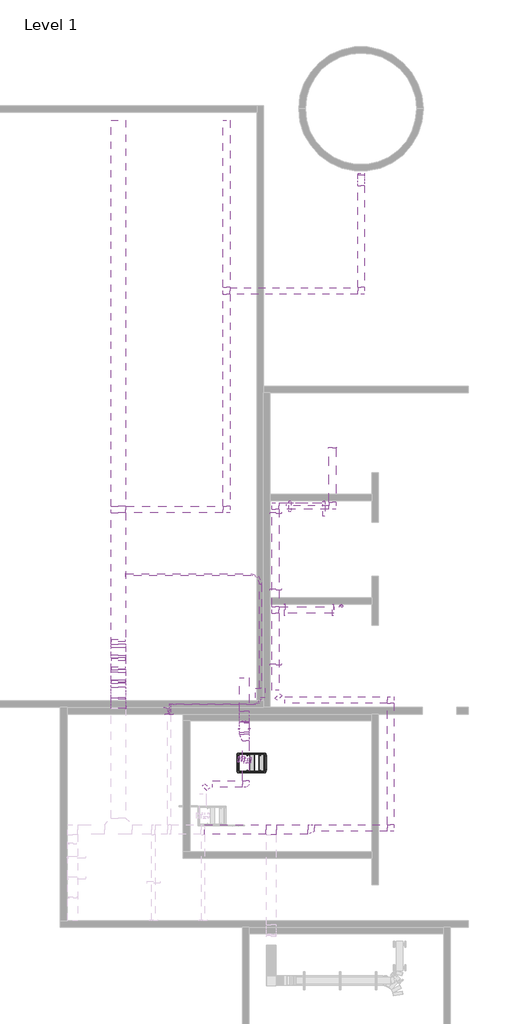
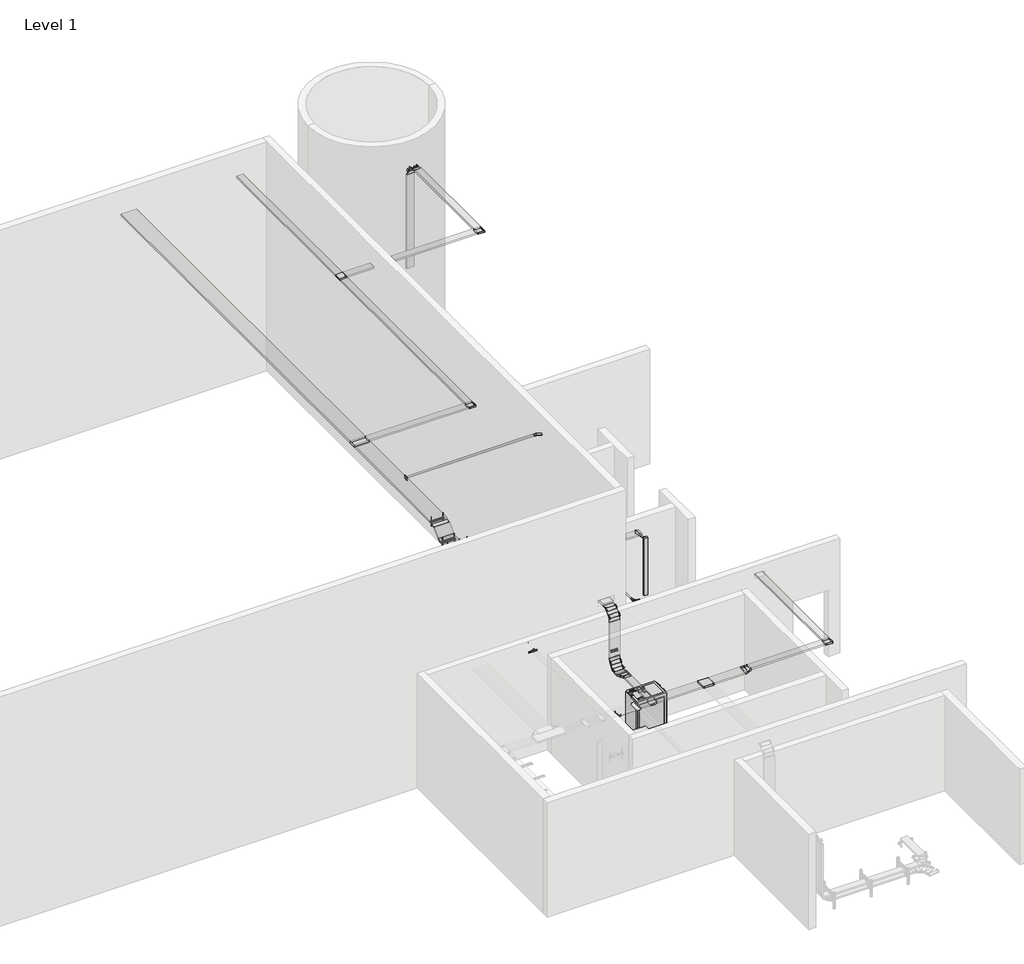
# One storey, part 2 of 2: 36 cable carrier segments, 32 cable carrier fittings, 23 electric appliances.
"""IFC4 building model written with IfcOpenShell, lengths in millimetres."""

from ifc_helpers import new_model, si_unit, point, frame, frame_2d, origin, place, context, project, spatial, polyline, circle_curve, trimmed, segment, composite_curve, outline, extrude, transform, mapped, element, save
from components import cable_carrier_fitting_d4a0889a, cable_carrier_fitting_e2da64ca, cable_carrier_fitting_910f61e4, cable_carrier_fitting_e0ec710b, cable_carrier_fitting_238cf4a7, cable_carrier_fitting_ab9d27d4, cable_carrier_fitting_27584eda, conduit_elbow_plain_end_pvc_standard_c46de57f, conduit_elbow_plain_end_pvc_standard_b2e2501a, conduit_elbow_plain_end_pvc_standard_9a413171, conduit_junction_box_transition_pvc_standard_5b6be8b8, inside_b042d5d7, inside_2fc0db71, inside_51a43a1a, outside_59f74532, outside_6f8a794d, outside_1cee0266, outside_6da51719, standard_9af1a614, standard_2a561b38, standard_1d63030c, electric_appliance_e5aa1008, electric_appliance_356cf39a, electric_appliance_c7009005, standard_d3cc3933, standard_755d2ce0, standard_970344b8, standard_d35a98ab, standard_966c1fd9, standard_ea093acd, standard_b50ad245, standard_c6b716ef, standard_7210bdc4, standard_b028e5ef

model = new_model("IFC4")

# Units and contexts
model_context = context("Model", 3, world=origin())
ifc_project = project(units=[si_unit("LENGTHUNIT", "METRE", prefix="MILLI")], contexts=[model_context])

# Site, building, storey
site = spatial("IfcSite", under=ifc_project)
building = spatial("IfcBuilding", under=site)
storey = spatial("IfcBuildingStorey", under=building, Name="Level 1", Elevation=0.0)

# Cable carrier fittings
placement = place(None, origin())
cable_carrier_fitting_shape = cable_carrier_fitting_d4a0889a(model_context)
element("IfcCableCarrierFitting", 1, ObjectType="Tee-Cablofil-Wire_Mesh_Cable_Tray : EZ T 90 KIT", at=placement, inside=storey, context=model_context, shape_type="MappedRepresentation", body=[
    mapped(cable_carrier_fitting_shape, transform((-1955.469197, 6970.8232107, 6705.6), x_axis=(0.0, 1.0, 0.0), y_axis=(-1.0, 0.0, 0.0), z_axis=(0.0, 0.0, 1.0))),
])
cable_carrier_fitting_2_shape = cable_carrier_fitting_e2da64ca(model_context)
element("IfcCableCarrierFitting", 2, ObjectType="Tee-Cablofil-Wire_Mesh_Cable_Tray : EZ T 90 KIT", at=placement, inside=storey, context=model_context, shape_type="MappedRepresentation", body=[
    mapped(cable_carrier_fitting_2_shape, transform((2915.3791948, 3862.7174485, 3352.8), x_axis=(0.0, 1.0, 0.0), y_axis=(-1.0, 0.0, 0.0), z_axis=(0.0, 0.0, 1.0))),
])
cable_carrier_fitting_3_shape = cable_carrier_fitting_910f61e4(model_context)
element("IfcCableCarrierFitting", 3, ObjectType="Tee-Cablofil-Wire_Mesh_Cable_Tray : EZ T 90 KIT", at=placement, inside=storey, context=model_context, shape_type="MappedRepresentation", body=[
    mapped(cable_carrier_fitting_3_shape, transform((2783.9308637, -2938.9704012, 3352.8), x_axis=(1.0, 0.0, 0.0), y_axis=(0.0, 1.0, 0.0), z_axis=(0.0, 0.0, 1.0))),
])
cable_carrier_fitting_4_shape = cable_carrier_fitting_e0ec710b(model_context)
element("IfcCableCarrierFitting", 4, ObjectType="Tee-Cablofil-Wire_Mesh_Cable_Tray : EZ T 90 KIT", at=placement, inside=storey, context=model_context, shape_type="MappedRepresentation", body=[
    mapped(cable_carrier_fitting_4_shape, transform((1397.330803, 13746.5239249, 6705.6), x_axis=(0.0, 1.0, 0.0), y_axis=(-1.0, 0.0, 0.0), z_axis=(0.0, 0.0, 1.0))),
])
cable_carrier_fitting_5_shape = cable_carrier_fitting_238cf4a7(model_context)
element("IfcCableCarrierFitting", 5, ObjectType="Bend-Horizontal-Cablofil-Wire_Mesh_Cable_Tray : EZ T 90 KIT", at=placement, inside=storey, context=model_context, shape_type="MappedRepresentation", body=[
    mapped(cable_carrier_fitting_5_shape, transform((6484.0791948, -2888.1704012, 3352.8), x_axis=(1.0, 0.0, 0.0), y_axis=(0.0, 1.0, 0.0), z_axis=(0.0, 0.0, 1.0))),
])
element("IfcCableCarrierFitting", 6, ObjectType="Bend-Horizontal-Cablofil-Wire_Mesh_Cable_Tray : EZ T 90 KIT", at=placement, inside=storey, context=model_context, shape_type="MappedRepresentation", body=[
    mapped(cable_carrier_fitting_5_shape, transform((2915.3791948, 7088.2240224, 3352.8), x_axis=(-1.0, 0.0, 0.0), y_axis=(0.0, -1.0, 0.0), z_axis=(0.0, 0.0, 1.0))),
])
element("IfcCableCarrierFitting", 7, ObjectType="Bend-Horizontal-Cablofil-Wire_Mesh_Cable_Tray : EZ T 90 KIT", at=placement, inside=storey, context=model_context, shape_type="MappedRepresentation", body=[
    mapped(cable_carrier_fitting_5_shape, transform((4680.6791948, 7088.2240224, 3352.8), x_axis=(1.0, 0.0, 0.0), y_axis=(0.0, 1.0, 0.0), z_axis=(0.0, 0.0, 1.0))),
])
element("IfcCableCarrierFitting", 8, ObjectType="Bend-Horizontal-Cablofil-Wire_Mesh_Cable_Tray : EZ T 90 KIT", at=placement, inside=storey, context=model_context, shape_type="MappedRepresentation", body=[
    mapped(cable_carrier_fitting_5_shape, transform((6484.0791948, 1074.2295988, 3352.8), x_axis=(0.0, 1.0, 0.0), y_axis=(-1.0, 0.0, 0.0), z_axis=(0.0, 0.0, 1.0))),
])
element("IfcCableCarrierFitting", 9, ObjectType="Bend-Horizontal-Cablofil-Wire_Mesh_Cable_Tray : EZ T 90 KIT", at=placement, inside=storey, context=model_context, shape_type="MappedRepresentation", body=[
    mapped(cable_carrier_fitting_5_shape, transform((1397.330803, 6970.8232107, 6705.6), x_axis=(1.0, 0.0, 0.0), y_axis=(0.0, 1.0, 0.0), z_axis=(0.0, 0.0, 1.0))),
])
cable_carrier_fitting_6_shape = cable_carrier_fitting_ab9d27d4(model_context)
element("IfcCableCarrierFitting", 10, ObjectType="Bend-Horizontal-Cablofil-Wire_Mesh_Cable_Tray : Faslock", at=placement, inside=storey, context=model_context, shape_type="MappedRepresentation", body=[
    mapped(cable_carrier_fitting_6_shape, transform((2915.3791948, 1074.2295988, 3352.8), x_axis=(0.0, -1.0, 0.0), y_axis=(1.0, 0.0, 0.0), z_axis=(0.0, 0.0, 1.0))),
])
element("IfcCableCarrierFitting", 11, ObjectType="Bend-Horizontal-Cablofil-Wire_Mesh_Cable_Tray : Faslock", at=placement, inside=storey, context=model_context, shape_type="MappedRepresentation", body=[
    mapped(cable_carrier_fitting_6_shape, transform((667.4791948, -1530.6766808, 2165.35), x_axis=(-1.0, 0.0, 0.0), y_axis=(0.0, -1.0, 0.0), z_axis=(0.0, 0.0, 1.0))),
])
cable_carrier_fitting_7_shape = cable_carrier_fitting_27584eda(model_context)
element("IfcCableCarrierFitting", 12, ObjectType="Bend-Horizontal-Cablofil-Wire_Mesh_Cable_Tray : RAD T 90 KIT", at=placement, inside=storey, context=model_context, shape_type="MappedRepresentation", body=[
    mapped(cable_carrier_fitting_7_shape, transform((1996.5308637, -1530.6766808, 2165.35), x_axis=(1.0, 0.0, 0.0), y_axis=(0.0, 1.0, 0.0), z_axis=(0.0, 0.0, 1.0))),
])
element("IfcCableCarrierFitting", 13, ObjectType="Bend-Horizontal-Cablofil-Wire_Mesh_Cable_Tray : EZ T 90 KIT", at=placement, inside=storey, context=model_context, shape_type="MappedRepresentation", body=[
    mapped(cable_carrier_fitting_5_shape, transform((5569.6791948, 13746.5239249, 6705.6), x_axis=(1.0, 0.0, 0.0), y_axis=(0.0, 1.0, 0.0), z_axis=(0.0, 0.0, 1.0))),
])
conduit_elbow_plain_end_pvc_standard_shape = conduit_elbow_plain_end_pvc_standard_c46de57f(model_context)
element("IfcCableCarrierFitting", 14, ObjectType="Conduit Elbow - Plain End - PVC : Standard", at=placement, inside=storey, context=model_context, shape_type="MappedRepresentation", body=[
    mapped(conduit_elbow_plain_end_pvc_standard_shape, transform((-405.297722, 843.6390015, 3343.6440938), x_axis=(0.0, 1.0, 0.0), y_axis=(-0.9999999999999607, 0.0, 2.8068152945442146e-07), z_axis=(2.8068152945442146e-07, 0.0, 0.9999999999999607))),
])
conduit_elbow_plain_end_pvc_standard_2_shape = conduit_elbow_plain_end_pvc_standard_b2e2501a(model_context)
element("IfcCableCarrierFitting", 15, ObjectType="Conduit Elbow - Plain End - PVC : Standard", at=placement, inside=storey, context=model_context, shape_type="MappedRepresentation", body=[
    mapped(conduit_elbow_plain_end_pvc_standard_2_shape, transform((-354.497722, 945.2390015, 3350.1210938), x_axis=(0.0, 1.0, 0.0), y_axis=(0.0, 0.0, 1.0), z_axis=(1.0, 0.0, 0.0))),
])
element("IfcCableCarrierFitting", 16, ObjectType="Conduit Elbow - Plain End - PVC : Standard", at=placement, inside=storey, context=model_context, shape_type="MappedRepresentation", body=[
    mapped(conduit_elbow_plain_end_pvc_standard_2_shape, transform((-354.497722, 945.2390015, 6705.6), x_axis=(0.0, 0.0, 1.0), y_axis=(1.0, 0.0, 0.0), z_axis=(0.0, 1.0, 0.0))),
])
element("IfcCableCarrierFitting", 17, ObjectType="Conduit Elbow - Plain End - PVC : Standard", at=placement, inside=storey, context=model_context, shape_type="MappedRepresentation", body=[
    mapped(conduit_elbow_plain_end_pvc_standard_2_shape, transform((2445.4791948, 945.2390015, 6705.6), x_axis=(1.0, 0.0, 0.0), y_axis=(0.0, 1.0, 0.0), z_axis=(0.0, 0.0, 1.0))),
])
conduit_elbow_plain_end_pvc_standard_3_shape = conduit_elbow_plain_end_pvc_standard_9a413171(model_context)
element("IfcCableCarrierFitting", 18, ObjectType="Conduit Elbow - Plain End - PVC : Standard", at=placement, inside=storey, context=model_context, shape_type="MappedRepresentation", body=[
    mapped(conduit_elbow_plain_end_pvc_standard_3_shape, transform((2445.4791948, 4949.2348146, 6705.6), x_axis=(0.0, 1.0, 0.0), y_axis=(-1.0, 0.0, 0.0), z_axis=(0.0, 0.0, 1.0))),
])
conduit_junction_box_transition_pvc_standard_shape = conduit_junction_box_transition_pvc_standard_5b6be8b8(model_context)
element("IfcCableCarrierFitting", 19, ObjectType="Conduit Junction Box - Transition - PVC : Standard", at=placement, inside=storey, context=model_context, shape_type="MappedRepresentation", body=[
    mapped(conduit_junction_box_transition_pvc_standard_shape, transform((2445.4791948, 1138.9140015, 6705.6), x_axis=(0.0, 1.0, 0.0), y_axis=(-1.0, 0.0, 0.0), z_axis=(0.0, 0.0, 1.0))),
])
inside_shape = inside_b042d5d7(model_context)
element("IfcCableCarrierFitting", 20, ObjectType="Bend-Vertical-Cablofil-Wire_Mesh_Cable_Tray : Inside", at=placement, inside=storey, context=model_context, shape_type="MappedRepresentation", body=[
    mapped(inside_shape, transform((1945.7308637, 371.687315, 2165.35), x_axis=(0.0, 1.0, 0.0), y_axis=(0.0, 0.0, 1.0), z_axis=(1.0, 0.0, 0.0))),
])
inside_2_shape = inside_2fc0db71(model_context)
element("IfcCableCarrierFitting", 21, ObjectType="Bend-Vertical-Cablofil-Wire_Mesh_Cable_Tray : Inside", at=placement, inside=storey, context=model_context, shape_type="MappedRepresentation", body=[
    mapped(inside_2_shape, transform((-1955.469197, 1123.0390015, 3352.8), x_axis=(0.0, 1.0, 0.0), y_axis=(0.0, 0.0, 1.0), z_axis=(1.0, 0.0, 0.0))),
])
inside_3_shape = inside_51a43a1a(model_context)
element("IfcCableCarrierFitting", 22, ObjectType="Bend-Vertical-Cablofil-Wire_Mesh_Cable_Tray : Inside", at=placement, inside=storey, context=model_context, shape_type="MappedRepresentation", body=[
    mapped(inside_3_shape, transform((-1955.469197, 1968.9174364, 6400.8), x_axis=(0.0, 0.7071067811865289, -0.7071067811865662), y_axis=(0.0, 0.7071067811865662, 0.7071067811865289), z_axis=(1.0, 0.0, 0.0))),
])
element("IfcCableCarrierFitting", 23, ObjectType="Bend-Vertical-Cablofil-Wire_Mesh_Cable_Tray : Inside", at=placement, inside=storey, context=model_context, shape_type="MappedRepresentation", body=[
    mapped(inside_3_shape, transform((-1955.469197, 2423.2921374, 6400.8), x_axis=(0.0, 1.0, 0.0), y_axis=(0.0, 0.0, 1.0), z_axis=(1.0, 0.0, 0.0))),
])
outside_shape = outside_59f74532(model_context)
element("IfcCableCarrierFitting", 24, ObjectType="Bend-Vertical-Cablofil-Wire_Mesh_Cable_Tray : Outside", at=placement, inside=storey, context=model_context, shape_type="MappedRepresentation", body=[
    mapped(outside_shape, transform((1945.7308637, 371.687315, 3962.4), x_axis=(0.0, 0.0, 1.0), y_axis=(0.0, 1.0, 0.0), z_axis=(-1.0, 0.0, 0.0))),
])
outside_2_shape = outside_6f8a794d(model_context)
element("IfcCableCarrierFitting", 25, ObjectType="Bend-Vertical-Cablofil-Wire_Mesh_Cable_Tray : Outside", at=placement, inside=storey, context=model_context, shape_type="MappedRepresentation", body=[
    mapped(outside_2_shape, transform((-1955.469197, 1123.0390015, 6705.6), x_axis=(0.0, 0.0, 1.0), y_axis=(0.0, 1.0, 0.0), z_axis=(-1.0, 0.0, 0.0))),
])
outside_3_shape = outside_1cee0266(model_context)
element("IfcCableCarrierFitting", 26, ObjectType="Bend-Vertical-Cablofil-Wire_Mesh_Cable_Tray : Outside", at=placement, inside=storey, context=model_context, shape_type="MappedRepresentation", body=[
    mapped(outside_3_shape, transform((-1955.469197, 1664.1174364, 6705.6), x_axis=(0.0, 1.0, 0.0), y_axis=(0.0, 0.0, -1.0), z_axis=(-1.0, 0.0, 0.0))),
])
element("IfcCableCarrierFitting", 27, ObjectType="Bend-Vertical-Cablofil-Wire_Mesh_Cable_Tray : Outside", at=placement, inside=storey, context=model_context, shape_type="MappedRepresentation", body=[
    mapped(outside_3_shape, transform((-1955.469197, 2728.0921374, 6705.6), x_axis=(0.0, 0.7071067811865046, 0.7071067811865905), y_axis=(0.0, 0.7071067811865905, -0.7071067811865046), z_axis=(-1.0, 0.0, 0.0))),
])
outside_4_shape = outside_6da51719(model_context)
element("IfcCableCarrierFitting", 28, ObjectType="Bend-Vertical-Cablofil-Wire_Mesh_Cable_Tray : Outside", at=placement, inside=storey, context=model_context, shape_type="MappedRepresentation", body=[
    mapped(outside_4_shape, transform((5569.6791948, 17358.4921374, 6705.6), x_axis=(0.0, 0.0, 1.0), y_axis=(0.0, -1.0, 0.0), z_axis=(1.0, 0.0, 0.0))),
])
standard_shape = standard_9af1a614(model_context)
element("IfcCableCarrierFitting", 29, ObjectType="End-Cablofil-Wire_Mesh_Cable_Tray : Standard", at=placement, inside=storey, context=model_context, shape_type="MappedRepresentation", body=[
    mapped(standard_shape, transform((4680.6791948, 8899.9695988, 3352.8), x_axis=(0.0, 1.0, 0.0), y_axis=(-1.0, 0.0, 0.0), z_axis=(0.0, 0.0, 1.0))),
])
standard_2_shape = standard_2a561b38(model_context)
element("IfcCableCarrierFitting", 30, ObjectType="End-Cablofil-Wire_Mesh_Cable_Tray-To_Conduit : Standard", at=placement, inside=storey, context=model_context, shape_type="MappedRepresentation", body=[
    mapped(standard_2_shape, transform((-379.897722, 637.9498015, 3352.8), x_axis=(0.0, 1.0, 0.0), y_axis=(-1.0, 0.0, 0.0), z_axis=(0.0, 0.0, 1.0))),
])
standard_3_shape = standard_1d63030c(model_context)
element("IfcCableCarrierFitting", 31, ObjectType="Reducer-Cablofil-Wire_Mesh_Cable_Tray : Standard", at=placement, inside=storey, context=model_context, shape_type="MappedRepresentation", body=[
    mapped(standard_3_shape, transform((4020.2791948, -2938.9704012, 3352.8), x_axis=(1.0, 0.0, 0.0), y_axis=(0.0, 1.0, 0.0), z_axis=(0.0, 0.0, 1.0))),
])
element("IfcCableCarrierFitting", 32, ObjectType="Reducer-Cablofil-Wire_Mesh_Cable_Tray : Standard", at=placement, inside=storey, context=model_context, shape_type="MappedRepresentation", body=[
    mapped(standard_3_shape, transform((1945.7308637, -85.512685, 2165.35), x_axis=(0.0, -1.0, 0.0), y_axis=(1.0, 0.0, 0.0), z_axis=(0.0, 0.0, 1.0))),
])

# Cable carrier segments
element("IfcCableCarrierSegment", 33, ObjectType="Cable_Tray-Wire_Mesh-Cablofil", at=placement, inside=storey, context=model_context, shape_type="SweptSolid", body=[
    extrude(outline(polyline([(2098.1308637, 16.087315), (1793.3308637, 16.087315), (1793.3308637, 72.3506914), (2098.1308637, 72.3506914), (2098.1308637, 16.087315)])), frame((0.0, 0.0, 2139.95), z_axis=(0.0, 0.0, 1.0), x_axis=(1.0, 0.0, 0.0)), (0.0, 0.0, 1.0), 50.8),
])
element("IfcCableCarrierSegment", 34, ObjectType="Cable_Tray-Wire_Mesh-Cablofil", at=placement, inside=storey, context=model_context, shape_type="SweptSolid", body=[
    extrude(outline(polyline([(2939.5058637, -3091.3704012), (2939.5058637, -2786.5704012), (3918.6791948, -2786.5704012), (3918.6791948, -3091.3704012), (2939.5058637, -3091.3704012)])), frame((0.0, 0.0, 3327.4), z_axis=(0.0, 0.0, 1.0), x_axis=(1.0, 0.0, 0.0)), (0.0, 0.0, 1.0), 50.8),
])
element("IfcCableCarrierSegment", 35, ObjectType="Cable_Tray-Wire_Mesh-Cablofil", at=placement, inside=storey, context=model_context, shape_type="SweptSolid", body=[
    extrude(outline(polyline([(6585.6791948, -2783.3954012), (6382.4791948, -2783.3954012), (6382.4791948, 969.4545988), (6585.6791948, 969.4545988), (6585.6791948, -2783.3954012)])), frame((0.0, 0.0, 3327.4), z_axis=(0.0, 0.0, 1.0), x_axis=(1.0, 0.0, 0.0)), (0.0, 0.0, 1.0), 50.8),
])
element("IfcCableCarrierSegment", 36, ObjectType="Cable_Tray-Wire_Mesh-Cablofil", at=placement, inside=storey, context=model_context, shape_type="SweptSolid", body=[
    extrude(outline(polyline([(965.3553227, -1632.2766808), (965.3553227, -1429.0766808), (1891.7558637, -1429.0766808), (1891.7558637, -1632.2766808), (965.3553227, -1632.2766808)])), frame((0.0, 0.0, 2139.95), z_axis=(0.0, 0.0, 1.0), x_axis=(1.0, 0.0, 0.0)), (0.0, 0.0, 1.0), 50.8),
])
element("IfcCableCarrierSegment", 37, ObjectType="Cable_Tray-Wire_Mesh-Cablofil", at=placement, inside=storey, context=model_context, shape_type="SweptSolid", body=[
    extrude(outline(polyline([(2628.3558637, -2786.5704012), (2628.3558637, -3091.3704012), (721.4541948, -3091.3704012), (721.4541948, -2786.5704012), (2628.3558637, -2786.5704012)])), frame((0.0, 0.0, 3327.4), z_axis=(0.0, 0.0, 1.0), x_axis=(1.0, 0.0, 0.0)), (0.0, 0.0, 1.0), 50.8),
])
element("IfcCableCarrierSegment", 38, ObjectType="Cable_Tray-Wire_Mesh-Cablofil", at=placement, inside=storey, context=model_context, shape_type="SweptSolid", body=[
    extrude(outline(polyline([(-1726.869197, 1473.1756252), (-2184.069197, 1473.1756252), (-2184.069197, 1598.6108881), (-1726.869197, 1598.6108881), (-1726.869197, 1473.1756252)])), frame((0.0, 0.0, 6680.2), z_axis=(0.0, 0.0, 1.0), x_axis=(1.0, 0.0, 0.0)), (0.0, 0.0, 1.0), 50.8),
])
element("IfcCableCarrierSegment", 39, ObjectType="Cable_Tray-Wire_Mesh-Cablofil", at=placement, inside=storey, context=model_context, shape_type="SweptSolid", body=[
    extrude(outline(polyline([(-1726.869197, 1148.4390015), (-1726.869197, 1097.6390015), (-2184.069197, 1097.6390015), (-2184.069197, 1148.4390015), (-1726.869197, 1148.4390015)])), frame((0.0, 0.0, 3652.1366237), z_axis=(0.0, 0.0, 1.0), x_axis=(1.0, 0.0, 0.0)), (0.0, 0.0, 1.0), 2703.3267527),
])
element("IfcCableCarrierSegment", 40, ObjectType="Cable_Tray-Wire_Mesh-Cablofil", at=placement, inside=storey, context=model_context, shape_type="SweptSolid", body=[
    extrude(outline(polyline([(0.0, -457.2), (0.0, 0.0), (321.0812463, 0.0), (321.0812463, -457.2), (0.0, -457.2)])), frame((-2184.069197, 1692.4770486, 6641.3193633), z_axis=(0.0, 0.7071067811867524, 0.7071067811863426), x_axis=(0.0, 0.7071067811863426, -0.7071067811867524)), (0.0, 0.0, 1.0), 50.8),
])
element("IfcCableCarrierSegment", 41, ObjectType="Cable_Tray-Wire_Mesh-Cablofil", at=placement, inside=storey, context=model_context, shape_type="SweptSolid", body=[
    extrude(outline(polyline([(-1726.869197, 2013.3819357), (-2184.069197, 2013.3819357), (-2184.069197, 2378.8276381), (-1726.869197, 2378.8276381), (-1726.869197, 2013.3819357)])), frame((0.0, 0.0, 6375.4), z_axis=(0.0, 0.0, 1.0), x_axis=(1.0, 0.0, 0.0)), (0.0, 0.0, 1.0), 50.8),
])
element("IfcCableCarrierSegment", 42, ObjectType="Cable_Tray-Wire_Mesh-Cablofil", at=placement, inside=storey, context=model_context, shape_type="SweptSolid", body=[
    extrude(outline(polyline([(228.6, 255.4067825), (228.6, 204.6067825), (-228.6, 204.6067825), (-228.6, 255.4067825), (228.6, 255.4067825)])), frame((-1955.469197, 2292.0939308, 6594.8805046), z_axis=(0.0, 0.7071067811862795, 0.7071067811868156), x_axis=(1.0, 0.0, 0.0)), (0.0, 0.0, 1.0), 321.0812463),
])
element("IfcCableCarrierSegment", 43, ObjectType="Cable_Tray-Wire_Mesh-Cablofil", at=placement, inside=storey, context=model_context, shape_type="SweptSolid", body=[
    extrude(outline(polyline([(-1726.869197, 7075.5982107), (-2184.069197, 7075.5982107), (-2184.069197, 19032.2639249), (-1726.869197, 19032.2639249), (-1726.869197, 7075.5982107)])), frame((0.0, 0.0, 6680.2), z_axis=(0.0, 0.0, 1.0), x_axis=(1.0, 0.0, 0.0)), (0.0, 0.0, 1.0), 50.8),
])
element("IfcCableCarrierSegment", 44, ObjectType="Cable_Tray-Wire_Mesh-Cablofil", at=placement, inside=storey, context=model_context, shape_type="SweptSolid", body=[
    extrude(outline(polyline([(3213.2553227, 972.6295988), (3213.2553227, 1175.8295988), (6379.3041948, 1175.8295988), (6379.3041948, 972.6295988), (3213.2553227, 972.6295988)])), frame((0.0, 0.0, 3327.4), z_axis=(0.0, 0.0, 1.0), x_axis=(1.0, 0.0, 0.0)), (0.0, 0.0, 1.0), 50.8),
])
element("IfcCableCarrierSegment", 45, ObjectType="Cable_Tray-Wire_Mesh-Cablofil", at=placement, inside=storey, context=model_context, shape_type="SweptSolid", body=[
    extrude(outline(polyline([(2813.7791948, 3757.9424485), (3016.9791948, 3757.9424485), (3016.9791948, 1372.1057267), (2813.7791948, 1372.1057267), (2813.7791948, 3757.9424485)])), frame((0.0, 0.0, 3327.4), z_axis=(0.0, 0.0, 1.0), x_axis=(1.0, 0.0, 0.0)), (0.0, 0.0, 1.0), 50.8),
])
element("IfcCableCarrierSegment", 46, ObjectType="Cable_Tray-Wire_Mesh-Cablofil", at=placement, inside=storey, context=model_context, shape_type="SweptSolid", body=[
    extrude(outline(polyline([(3020.1541948, 3761.1174485), (3020.1541948, 3964.3174485), (4721.9541948, 3964.3174485), (4721.9541948, 3761.1174485), (3020.1541948, 3761.1174485)])), frame((0.0, 0.0, 3327.4), z_axis=(0.0, 0.0, 1.0), x_axis=(1.0, 0.0, 0.0)), (0.0, 0.0, 1.0), 50.8),
])
element("IfcCableCarrierSegment", 47, ObjectType="Cable_Tray-Wire_Mesh-Cablofil", at=placement, inside=storey, context=model_context, shape_type="SweptSolid", body=[
    extrude(outline(polyline([(3016.9791948, 3967.4924485), (2813.7791948, 3967.4924485), (2813.7791948, 6983.4490224), (3016.9791948, 6983.4490224), (3016.9791948, 3967.4924485)])), frame((0.0, 0.0, 3327.4), z_axis=(0.0, 0.0, 1.0), x_axis=(1.0, 0.0, 0.0)), (0.0, 0.0, 1.0), 50.8),
])
element("IfcCableCarrierSegment", 48, ObjectType="Cable_Tray-Wire_Mesh-Cablofil", at=placement, inside=storey, context=model_context, shape_type="SweptSolid", body=[
    extrude(outline(polyline([(3020.1541948, 6986.6240224), (3020.1541948, 7189.8240224), (4575.9041948, 7189.8240224), (4575.9041948, 6986.6240224), (3020.1541948, 6986.6240224)])), frame((0.0, 0.0, 3327.4), z_axis=(0.0, 0.0, 1.0), x_axis=(1.0, 0.0, 0.0)), (0.0, 0.0, 1.0), 50.8),
])
element("IfcCableCarrierSegment", 49, ObjectType="Cable_Tray-Wire_Mesh-Cablofil", at=placement, inside=storey, context=model_context, shape_type="SweptSolid", body=[
    extrude(outline(polyline([(4782.2791948, 7192.9990224), (4579.0791948, 7192.9990224), (4579.0791948, 8899.9695988), (4782.2791948, 8899.9695988), (4782.2791948, 7192.9990224)])), frame((0.0, 0.0, 3327.4), z_axis=(0.0, 0.0, 1.0), x_axis=(1.0, 0.0, 0.0)), (0.0, 0.0, 1.0), 50.8),
])
element("IfcCableCarrierSegment", 50, ObjectType="Cable_Tray-Wire_Mesh-Cablofil", at=placement, inside=storey, context=model_context, shape_type="SweptSolid", body=[
    extrude(outline(polyline([(-1723.694197, 6869.2232107), (-1723.694197, 7072.4232107), (1292.555803, 7072.4232107), (1292.555803, 6869.2232107), (-1723.694197, 6869.2232107)])), frame((0.0, 0.0, 6680.2), z_axis=(0.0, 0.0, 1.0), x_axis=(1.0, 0.0, 0.0)), (0.0, 0.0, 1.0), 50.8),
])
element("IfcCableCarrierSegment", 51, ObjectType="Cable_Tray-Wire_Mesh-Cablofil", at=placement, inside=storey, context=model_context, shape_type="SweptSolid", body=[
    extrude(outline(polyline([(-1726.869197, 2793.5986857), (-2184.069197, 2793.5986857), (-2184.069197, 6866.0482107), (-1726.869197, 6866.0482107), (-1726.869197, 2793.5986857)])), frame((0.0, 0.0, 6680.2), z_axis=(0.0, 0.0, 1.0), x_axis=(1.0, 0.0, 0.0)), (0.0, 0.0, 1.0), 50.8),
])
element("IfcCableCarrierSegment", 52, ObjectType="Cable_Tray-Wire_Mesh-Cablofil", at=placement, inside=storey, context=model_context, shape_type="SweptSolid", body=[
    extrude(outline(polyline([(1498.930803, 13851.2989249), (1295.730803, 13851.2989249), (1295.730803, 19032.2639249), (1498.930803, 19032.2639249), (1498.930803, 13851.2989249)])), frame((0.0, 0.0, 6680.2), z_axis=(0.0, 0.0, 1.0), x_axis=(1.0, 0.0, 0.0)), (0.0, 0.0, 1.0), 50.8),
])
element("IfcCableCarrierSegment", 53, ObjectType="Cable_Tray-Wire_Mesh-Cablofil", at=placement, inside=storey, context=model_context, shape_type="SweptSolid", body=[
    extrude(outline(polyline([(1502.105803, 13644.9239249), (1502.105803, 13848.1239249), (5464.9041948, 13848.1239249), (5464.9041948, 13644.9239249), (1502.105803, 13644.9239249)])), frame((0.0, 0.0, 6680.2), z_axis=(0.0, 0.0, 1.0), x_axis=(1.0, 0.0, 0.0)), (0.0, 0.0, 1.0), 50.8),
])
element("IfcCableCarrierSegment", 54, ObjectType="Cable_Tray-Wire_Mesh-Cablofil", at=placement, inside=storey, context=model_context, shape_type="SweptSolid", body=[
    extrude(outline(polyline([(1295.730803, 13641.7489249), (1498.930803, 13641.7489249), (1498.930803, 7075.5982107), (1295.730803, 7075.5982107), (1295.730803, 13641.7489249)])), frame((0.0, 0.0, 6680.2), z_axis=(0.0, 0.0, 1.0), x_axis=(1.0, 0.0, 0.0)), (0.0, 0.0, 1.0), 50.8),
])
element("IfcCableCarrierSegment", 55, ObjectType="Cable_Tray-Wire_Mesh-Cablofil", at=placement, inside=storey, context=model_context, shape_type="SweptSolid", body=[
    extrude(outline(polyline([(5468.0791948, 17008.3555138), (5671.2791948, 17008.3555138), (5671.2791948, 13851.2989249), (5468.0791948, 13851.2989249), (5468.0791948, 17008.3555138)])), frame((0.0, 0.0, 6680.2), z_axis=(0.0, 0.0, 1.0), x_axis=(1.0, 0.0, 0.0)), (0.0, 0.0, 1.0), 50.8),
])
element("IfcCableCarrierSegment", 56, ObjectType="Cable_Tray-Wire_Mesh-Cablofil", at=placement, inside=storey, context=model_context, shape_type="SweptSolid", body=[
    extrude(outline(polyline([(5671.2791948, 17333.0921374), (5468.0791948, 17333.0921374), (5468.0791948, 17383.8921374), (5671.2791948, 17383.8921374), (5671.2791948, 17333.0921374)])), frame((0.0, 0.0, 3352.8), z_axis=(0.0, 0.0, 1.0), x_axis=(1.0, 0.0, 0.0)), (0.0, 0.0, 1.0), 3002.6633763),
])
element("IfcCableCarrierSegment", 57, ObjectType="Cable_Tray-Wire_Mesh-Cablofil", at=placement, inside=storey, context=model_context, shape_type="SweptSolid", body=[
    extrude(outline(polyline([(4121.8791948, -2989.7704012), (4121.8791948, -2786.5704012), (6379.3041948, -2786.5704012), (6379.3041948, -2989.7704012), (4121.8791948, -2989.7704012)])), frame((0.0, 0.0, 3327.4), z_axis=(0.0, 0.0, 1.0), x_axis=(1.0, 0.0, 0.0)), (0.0, 0.0, 1.0), 50.8),
])
element("IfcCableCarrierSegment", 58, ObjectType="Rigid Nonmetallic Conduit (RNC Sch 40)", at=placement, inside=storey, context=model_context, shape_type="SweptSolid", body=[
    extrude(outline(composite_curve([segment(trimmed(circle_curve(frame_2d((945.2390015, 6705.6)), 16.7005), [point((928.5385015, 6705.6))], [point((945.2390015, 6722.3005))], False, "CARTESIAN"), True, "CONTINUOUS"), segment(trimmed(circle_curve(frame_2d((945.2390015, 6705.6)), 16.7005), [point((945.2390015, 6722.3005))], [point((961.9395015, 6705.6))], False, "CARTESIAN"), True, "CONTINUOUS"), segment(trimmed(circle_curve(frame_2d((945.2390015, 6705.6)), 16.7005), [point((961.9395015, 6705.6))], [point((945.2390015, 6688.8995))], False, "CARTESIAN"), True, "CONTINUOUS"), segment(trimmed(circle_curve(frame_2d((945.2390015, 6705.6)), 16.7005), [point((945.2390015, 6688.8995))], [point((928.5385015, 6705.6))], False, "CARTESIAN"), True, "CONTINUOUS")], self_intersect=False)), frame((-160.822722, 0.0, 0.0), z_axis=(1.0, 0.0, 0.0), x_axis=(0.0, 1.0, 0.0)), (0.0, 0.0, 1.0), 2412.6269167),
])
element("IfcCableCarrierSegment", 59, ObjectType="Rigid Nonmetallic Conduit (RNC Sch 40)", at=placement, inside=storey, context=model_context, shape_type="SweptSolid", body=[
    extrude(outline(composite_curve([segment(trimmed(circle_curve(frame_2d((-354.497722, 945.2390015)), 16.7005), [point((-371.198222, 945.2390015))], [point((-354.497722, 961.9395015))], False, "CARTESIAN"), True, "CONTINUOUS"), segment(trimmed(circle_curve(frame_2d((-354.497722, 945.2390015)), 16.7005), [point((-354.497722, 961.9395015))], [point((-337.797222, 945.2390015))], False, "CARTESIAN"), True, "CONTINUOUS"), segment(trimmed(circle_curve(frame_2d((-354.497722, 945.2390015)), 16.7005), [point((-337.797222, 945.2390015))], [point((-354.497722, 928.5385015))], False, "CARTESIAN"), True, "CONTINUOUS"), segment(trimmed(circle_curve(frame_2d((-354.497722, 945.2390015)), 16.7005), [point((-354.497722, 928.5385015))], [point((-371.198222, 945.2390015))], False, "CARTESIAN"), True, "CONTINUOUS")], self_intersect=False)), frame((0.0, 0.0, 3543.7960938), z_axis=(0.0, 0.0, 1.0), x_axis=(1.0, 0.0, 0.0)), (0.0, 0.0, 1.0), 2968.1289063),
])
element("IfcCableCarrierSegment", 60, ObjectType="Rigid Nonmetallic Conduit (RNC Sch 40)", at=placement, inside=storey, context=model_context, shape_type="SweptSolid", body=[
    extrude(outline(composite_curve([segment(trimmed(circle_curve(frame_2d((4949.2348146, 6705.6)), 30.1625), [point((4979.3973146, 6705.6))], [point((4949.2348146, 6675.4375))], False, "CARTESIAN"), True, "CONTINUOUS"), segment(trimmed(circle_curve(frame_2d((4949.2348146, 6705.6)), 30.1625), [point((4949.2348146, 6675.4375))], [point((4919.0723146, 6705.6))], False, "CARTESIAN"), True, "CONTINUOUS"), segment(trimmed(circle_curve(frame_2d((4949.2348146, 6705.6)), 30.1625), [point((4919.0723146, 6705.6))], [point((4949.2348146, 6735.7625))], False, "CARTESIAN"), True, "CONTINUOUS"), segment(trimmed(circle_curve(frame_2d((4949.2348146, 6705.6)), 30.1625), [point((4949.2348146, 6735.7625))], [point((4979.3973146, 6705.6))], False, "CARTESIAN"), True, "CONTINUOUS")], self_intersect=False)), frame((-1725.675397, 0.0, 0.0), z_axis=(1.0, 0.0, 0.0), x_axis=(0.0, 1.0, 0.0)), (0.0, 0.0, 1.0), 3879.0545917),
])
element("IfcCableCarrierSegment", 61, ObjectType="Rigid Nonmetallic Conduit (RNC Sch 40)", at=placement, inside=storey, context=model_context, shape_type="SweptSolid", body=[
    extrude(outline(composite_curve([segment(trimmed(circle_curve(frame_2d((6705.6, 2445.4791948)), 30.1625), [point((6705.6, 2475.6416948))], [point((6735.7625, 2445.4791948))], False, "CARTESIAN"), True, "CONTINUOUS"), segment(trimmed(circle_curve(frame_2d((6705.6, 2445.4791948)), 30.1625), [point((6735.7625, 2445.4791948))], [point((6705.6, 2415.3166948))], False, "CARTESIAN"), True, "CONTINUOUS"), segment(trimmed(circle_curve(frame_2d((6705.6, 2445.4791948)), 30.1625), [point((6705.6, 2415.3166948))], [point((6675.4375, 2445.4791948))], False, "CARTESIAN"), True, "CONTINUOUS"), segment(trimmed(circle_curve(frame_2d((6705.6, 2445.4791948)), 30.1625), [point((6675.4375, 2445.4791948))], [point((6705.6, 2475.6416948))], False, "CARTESIAN"), True, "CONTINUOUS")], self_intersect=False)), frame((0.0, 1443.7140015, 0.0), z_axis=(0.0, 1.0, 0.0), x_axis=(0.0, 0.0, 1.0)), (0.0, 0.0, 1.0), 3213.4208131),
])
element("IfcCableCarrierSegment", 62, ObjectType="Cable_Tray-Wire_Mesh-Cablofil-G_Tray", at=placement, inside=storey, context=model_context, shape_type="SweptSolid", body=[
    extrude(outline(polyline([(5001.2539753, 3999.5890015), (5001.2539753, 3948.7890015), (4899.6539753, 3948.7890015), (4899.6539753, 3999.5890015), (5001.2539753, 3999.5890015)])), frame((0.0, 0.0, 1219.2001018), z_axis=(0.0, 0.0, 1.0), x_axis=(1.0, 0.0, 0.0)), (0.0, 0.0, 1.0), 1828.8001018),
])
element("IfcCableCarrierSegment", 63, ObjectType="Cable_Tray-Wire_Mesh-Cablofil-G_Tray", at=placement, inside=storey, context=model_context, shape_type="SweptSolid", body=[
    extrude(outline(polyline([(3255.1041948, 7088.2240224), (3255.1041948, 7189.8240224), (4575.9041948, 7189.8240224), (4575.9041948, 7088.2240224), (3255.1041948, 7088.2240224)])), frame((0.0, 0.0, 3562.858), z_axis=(0.0, 0.0, 1.0), x_axis=(1.0, 0.0, 0.0)), (0.0, 0.0, 1.0), 50.8),
])
element("IfcCableCarrierSegment", 64, ObjectType="Cable_Tray-Wire_Mesh-Cablofil", at=placement, inside=storey, context=model_context, shape_type="SweptSolid", body=[
    extrude(outline(polyline([(1894.9308637, -187.112685), (2098.1308637, -187.112685), (2098.1308637, -1425.9016808), (1894.9308637, -1425.9016808), (1894.9308637, -187.112685)])), frame((0.0, 0.0, 2139.95), z_axis=(0.0, 0.0, 1.0), x_axis=(1.0, 0.0, 0.0)), (0.0, 0.0, 1.0), 50.8),
])
element("IfcCableCarrierSegment", 65, ObjectType="Cable_Tray-Wire_Mesh-Cablofil", at=placement, inside=storey, context=model_context, shape_type="SweptSolid", body=[
    extrude(outline(polyline([(2098.1308637, 721.8239387), (1793.3308637, 721.8239387), (1793.3308637, 1768.687315), (2098.1308637, 1768.687315), (2098.1308637, 721.8239387)])), frame((0.0, 0.0, 3937.0), z_axis=(0.0, 0.0, 1.0), x_axis=(1.0, 0.0, 0.0)), (0.0, 0.0, 1.0), 50.8),
])
element("IfcCableCarrierSegment", 66, ObjectType="Cable_Tray-Wire_Mesh-Cablofil", at=placement, inside=storey, context=model_context, shape_type="SweptSolid", body=[
    extrude(outline(polyline([(2098.1308637, 397.087315), (2098.1308637, 346.287315), (1793.3308637, 346.287315), (1793.3308637, 397.087315), (2098.1308637, 397.087315)])), frame((0.0, 0.0, 2464.6866237), z_axis=(0.0, 0.0, 1.0), x_axis=(1.0, 0.0, 0.0)), (0.0, 0.0, 1.0), 1147.5767527),
])
element("IfcCableCarrierSegment", 67, ObjectType="Rigid Nonmetallic Conduit (RNC Sch 40)", at=placement, inside=storey, context=model_context, shape_type="SweptSolid", body=[
    extrude(outline(composite_curve([segment(trimmed(circle_curve(frame_2d((3350.0822, -354.497722)), 16.7005), [point((3350.0822, -371.198222))], [point((3333.3817, -354.497722))], False, "CARTESIAN"), True, "CONTINUOUS"), segment(trimmed(circle_curve(frame_2d((3350.0822, -354.497722)), 16.7005), [point((3333.3817, -354.497722))], [point((3350.0822, -337.797222))], False, "CARTESIAN"), True, "CONTINUOUS"), segment(trimmed(circle_curve(frame_2d((3350.0822, -354.497722)), 16.7005), [point((3350.0822, -337.797222))], [point((3366.7827, -354.497722))], False, "CARTESIAN"), True, "CONTINUOUS"), segment(trimmed(circle_curve(frame_2d((3350.0822, -354.497722)), 16.7005), [point((3366.7827, -354.497722))], [point((3350.0822, -371.198222))], False, "CARTESIAN"), True, "CONTINUOUS")], self_intersect=False)), frame((0.0, 634.0890015, 0.0), z_axis=(0.0, 1.0, 0.0), x_axis=(0.0, 0.0, 1.0)), (0.0, 0.0, 1.0), 117.475),
])
element("IfcCableCarrierSegment", 68, ObjectType="Rigid Nonmetallic Conduit (RNC Sch 40)", at=placement, inside=storey, context=model_context, shape_type="SweptSolid", body=[
    extrude(outline(composite_curve([segment(trimmed(circle_curve(frame_2d((3343.6052, -405.297722)), 10.668), [point((3343.6052, -415.965722))], [point((3332.9372, -405.297722))], False, "CARTESIAN"), True, "CONTINUOUS"), segment(trimmed(circle_curve(frame_2d((3343.6052, -405.297722)), 10.668), [point((3332.9372, -405.297722))], [point((3343.6052, -394.629722))], False, "CARTESIAN"), True, "CONTINUOUS"), segment(trimmed(circle_curve(frame_2d((3343.6052, -405.297722)), 10.668), [point((3343.6052, -394.629722))], [point((3354.2732, -405.297722))], False, "CARTESIAN"), True, "CONTINUOUS"), segment(trimmed(circle_curve(frame_2d((3343.6052, -405.297722)), 10.668), [point((3354.2732, -405.297722))], [point((3343.6052, -415.965722))], False, "CARTESIAN"), True, "CONTINUOUS")], self_intersect=False)), frame((0.0, 634.0890015, 0.0), z_axis=(0.0, 1.0, 0.0), x_axis=(0.0, 0.0, 1.0)), (0.0, 0.0, 1.0), 69.85),
])

# Electric appliances
electric_appliance_shape = electric_appliance_e5aa1008(model_context)
element("IfcElectricAppliance", 69, ObjectType="Cabinet-Network-Ortronics-Preconfigured-Mighty_Mo : 42 RU x 24\" W x 36\" D", at=placement, inside=storey, context=model_context, shape_type="MappedRepresentation", body=[
    mapped(electric_appliance_shape, transform((2173.2259637, -870.7058369, 0.0), x_axis=(0.0, 1.0000000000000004, 0.0), y_axis=(-1.0000000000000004, 0.0, 0.0), z_axis=(0.0, 0.0, 1.0))),
])
electric_appliance_2_shape = electric_appliance_356cf39a(model_context)
element("IfcElectricAppliance", 70, ObjectType="Clamp-Conduit-Cablofil : For 1/2\" - 1 1/2\" Conduit", at=placement, inside=storey, context=model_context, shape_type="MappedRepresentation", body=[
    mapped(electric_appliance_2_shape, transform((-1726.869197, 843.6390015, 3343.5726955), x_axis=(0.0, 1.0, 0.0), y_axis=(0.0, 0.0, 1.0), z_axis=(1.0, 0.0, 0.0))),
])
electric_appliance_3_shape = electric_appliance_c7009005(model_context)
element("IfcElectricAppliance", 71, ObjectType="Clamp-Conduit-Cablofil : For 1/2\" - 4\" Conduit", at=placement, inside=storey, context=model_context, shape_type="MappedRepresentation", body=[
    mapped(electric_appliance_3_shape, transform((-1726.869197, 4949.2348146, 6705.6), x_axis=(0.0, 1.0, 0.0), y_axis=(0.0, 0.0, 1.0), z_axis=(1.0, 0.0, 0.0))),
])
standard_4_shape = standard_d3cc3933(model_context)
element("IfcElectricAppliance", 72, ObjectType="Clip-Trapeze-Cablofil : Standard", at=placement, inside=storey, context=model_context, shape_type="MappedRepresentation", body=[
    mapped(standard_4_shape, transform((2098.1308637, 186.326606, 2166.1054026), x_axis=(0.0, 1.0, 0.0), y_axis=(0.0, 0.0, 1.0), z_axis=(1.0, 0.0, 0.0))),
])
element("IfcElectricAppliance", 73, ObjectType="Clip-Trapeze-Cablofil : Standard", at=placement, inside=storey, context=model_context, shape_type="MappedRepresentation", body=[
    mapped(standard_4_shape, transform((1793.3308637, 186.326606, 2166.1054026), x_axis=(0.0, -1.0, 0.0), y_axis=(0.0, 0.0, 1.0), z_axis=(-1.0, 0.0, 0.0))),
])
standard_5_shape = standard_755d2ce0(model_context)
element("IfcElectricAppliance", 74, ObjectType="Bracket-Cantilever-Cablofil-Fas_Profile : Standard", at=placement, inside=storey, context=model_context, shape_type="MappedRepresentation", body=[
    mapped(standard_5_shape, transform((2928.0791948, 4501.2390015, 3327.4), x_axis=(0.0, 1.0, 0.0), y_axis=(1.0, 0.0, 0.0), z_axis=(0.0, 0.0, -1.0))),
])
standard_6_shape = standard_970344b8(model_context)
element("IfcElectricAppliance", 75, ObjectType="Bracket-Floor-Cablofil : Standard", at=placement, inside=storey, context=model_context, shape_type="MappedRepresentation", body=[
    mapped(standard_6_shape, transform((1952.7188567, -779.0919396, 2139.95), x_axis=(-0.08898865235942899, -0.996032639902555, 0.0), y_axis=(-0.996032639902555, 0.08898865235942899, 0.0), z_axis=(0.0, 0.0, -1.0))),
])
standard_7_shape = standard_d35a98ab(model_context)
element("IfcElectricAppliance", 76, ObjectType="Bracket-I-Cablofil-FAS_Profile-Trapeeze : Standard", at=placement, inside=storey, context=model_context, shape_type="MappedRepresentation", body=[
    mapped(standard_7_shape, transform((-1955.469197, 2062.8390015, 6375.4), x_axis=(1.0, 0.0, 0.0), y_axis=(0.0, -1.0, 0.0), z_axis=(0.0, 0.0, -1.0))),
])
element("IfcElectricAppliance", 77, ObjectType="Bracket-I-Cablofil-FAS_Profile-Trapeeze : Standard", at=placement, inside=storey, context=model_context, shape_type="MappedRepresentation", body=[
    mapped(standard_7_shape, transform((-1955.469197, 2329.5390015, 6375.4), x_axis=(1.0, 0.0, 0.0), y_axis=(0.0, -1.0, 0.0), z_axis=(0.0, 0.0, -1.0))),
])
element("IfcElectricAppliance", 78, ObjectType="Bracket-I-Cablofil-FAS_Profile-Trapeeze : Standard", at=placement, inside=storey, context=model_context, shape_type="MappedRepresentation", body=[
    mapped(standard_7_shape, transform((-1955.469197, 1657.8994973, 6680.2), x_axis=(1.0, 0.0, 0.0), y_axis=(0.0, -1.0, 0.0), z_axis=(0.0, 0.0, -1.0))),
])
element("IfcElectricAppliance", 79, ObjectType="Bracket-I-Cablofil-FAS_Profile-Trapeeze : Standard", at=placement, inside=storey, context=model_context, shape_type="MappedRepresentation", body=[
    mapped(standard_7_shape, transform((-1955.469197, 2915.8385265, 6680.2), x_axis=(1.0, 0.0, 0.0), y_axis=(0.0, -1.0, 0.0), z_axis=(0.0, 0.0, -1.0))),
])
standard_8_shape = standard_966c1fd9(model_context)
element("IfcElectricAppliance", 80, ObjectType="Bracket-Wall-Cablofil : Standard", at=placement, inside=storey, context=model_context, shape_type="MappedRepresentation", body=[
    mapped(standard_8_shape, transform((1945.7308637, 437.2390015, 2650.383063), x_axis=(1.0, 0.0, 0.0), y_axis=(0.0, 0.0, 1.0), z_axis=(0.0, -1.0, 0.0))),
])
standard_9_shape = standard_ea093acd(model_context)
element("IfcElectricAppliance", 81, ObjectType="Mount-Surface-Cablofil : Standard", at=placement, inside=storey, context=model_context, shape_type="MappedRepresentation", body=[
    mapped(standard_9_shape, transform((4950.4539753, 3999.5890015, 3008.5001018), x_axis=(1.0, 0.0, 0.0), y_axis=(0.0, 0.0, -1.0), z_axis=(0.0, 1.0, 0.0))),
])
element("IfcElectricAppliance", 82, ObjectType="Mount-Surface-Cablofil : Standard", at=placement, inside=storey, context=model_context, shape_type="MappedRepresentation", body=[
    mapped(standard_9_shape, transform((4950.4539753, 3999.5890015, 1258.7001018), x_axis=(1.0, 0.0, 0.0), y_axis=(0.0, 0.0, -1.0), z_axis=(0.0, 1.0, 0.0))),
])
element("IfcElectricAppliance", 83, ObjectType="Mount-Surface-Cablofil : Standard", at=placement, inside=storey, context=model_context, shape_type="MappedRepresentation", body=[
    mapped(standard_9_shape, transform((4950.4539753, 3999.5890015, 2133.6001528), x_axis=(1.0, 0.0, 0.0), y_axis=(0.0, 0.0, -1.0), z_axis=(0.0, 1.0, 0.0))),
])
element("IfcElectricAppliance", 84, ObjectType="Bracket-Cantilever-Cablofil-Fas_Profile : Standard", at=placement, inside=storey, context=model_context, shape_type="MappedRepresentation", body=[
    mapped(standard_5_shape, transform((2928.0791948, 2179.8307267, 3327.4), x_axis=(0.0, 1.0, 0.0), y_axis=(1.0, 0.0, 0.0), z_axis=(0.0, 0.0, -1.0))),
])
element("IfcElectricAppliance", 85, ObjectType="Bracket-Cantilever-Cablofil-Fas_Profile : Standard", at=placement, inside=storey, context=model_context, shape_type="MappedRepresentation", body=[
    mapped(standard_5_shape, transform((2928.0791948, 6863.4390015, 3327.4), x_axis=(0.0, 1.0, 0.0), y_axis=(1.0, 0.0, 0.0), z_axis=(0.0, 0.0, -1.0))),
])
standard_10_shape = standard_b50ad245(model_context)
element("IfcElectricAppliance", 86, ObjectType="Waterfall-Cablofil : Standard", at=placement, inside=storey, context=model_context, shape_type="MappedRepresentation", body=[
    mapped(standard_10_shape, transform((1997.6215559, -782.1872328, 2139.95), x_axis=(-0.08898865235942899, -0.996032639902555, 0.0), y_axis=(-0.996032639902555, 0.08898865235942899, 0.0), z_axis=(0.0, 0.0, -1.0))),
])
element("IfcElectricAppliance", 87, ObjectType="Waterfall-Cablofil : Standard", at=placement, inside=storey, context=model_context, shape_type="MappedRepresentation", body=[
    mapped(standard_10_shape, transform((1907.6776226, -777.5472403, 2139.95), x_axis=(0.08898865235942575, 0.9960326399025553, 0.0), y_axis=(0.9960326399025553, -0.08898865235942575, 0.0), z_axis=(0.0, 0.0, -1.0))),
])
standard_11_shape = standard_c6b716ef(model_context)
element("IfcElectricAppliance", 88, ObjectType="Bracket-Cantilever-Cablofil-Reinforced : Standard", at=placement, inside=storey, context=model_context, shape_type="MappedRepresentation", body=[
    mapped(standard_11_shape, transform((4697.9805211, 3862.7174485, 3327.4), x_axis=(1.0, 0.0, 0.0), y_axis=(0.0, -1.0, 0.0), z_axis=(0.0, 0.0, -1.0))),
])
element("IfcElectricAppliance", 89, ObjectType="Bracket-Cantilever-Cablofil-Reinforced : Standard", at=placement, inside=storey, context=model_context, shape_type="MappedRepresentation", body=[
    mapped(standard_11_shape, transform((3198.7149882, 3864.6174485, 3327.4), x_axis=(1.0, 0.0, 0.0), y_axis=(0.0, -1.0, 0.0), z_axis=(0.0, 0.0, -1.0))),
])
standard_12_shape = standard_7210bdc4(model_context)
element("IfcElectricAppliance", 90, ObjectType="Bracket-C-Cablofil-Fas_Profile : Standard", at=placement, inside=storey, context=model_context, shape_type="MappedRepresentation", body=[
    mapped(standard_12_shape, transform((4422.3950858, 7003.1390015, 3327.4), x_axis=(1.0, 0.0, 0.0), y_axis=(0.0, -1.0, 0.0), z_axis=(0.0, 0.0, -1.0))),
])
standard_13_shape = standard_b028e5ef(model_context)
element("IfcElectricAppliance", 91, ObjectType="Bracket-C-Cablofil-Standard : Standard", at=placement, inside=storey, context=model_context, shape_type="MappedRepresentation", body=[
    mapped(standard_13_shape, transform((3366.2291948, 7072.9890015, 3327.4), x_axis=(1.0, 0.0, 0.0), y_axis=(0.0, -1.0, 0.0), z_axis=(0.0, 0.0, -1.0))),
])

save(model, "model.ifc")
